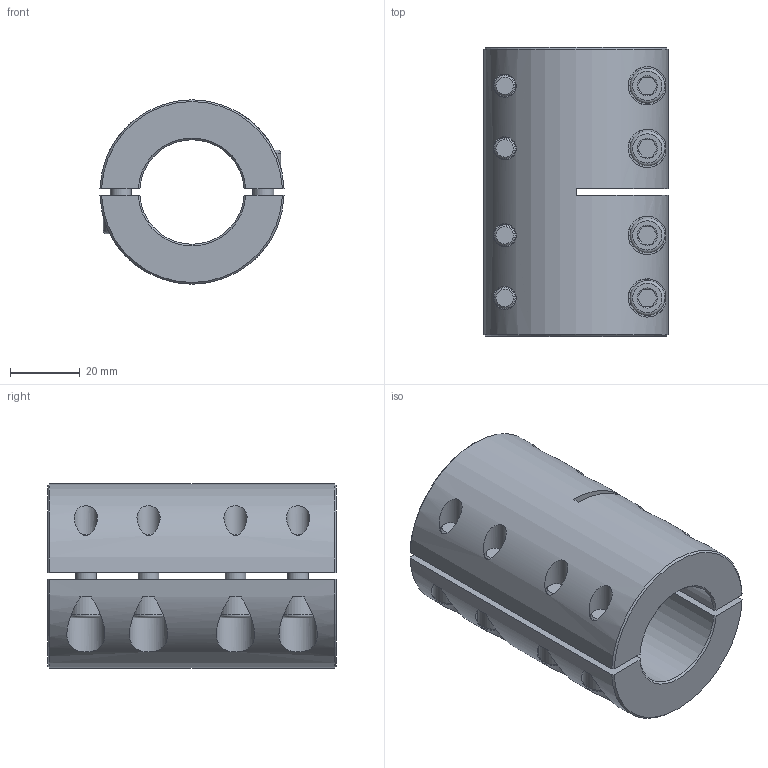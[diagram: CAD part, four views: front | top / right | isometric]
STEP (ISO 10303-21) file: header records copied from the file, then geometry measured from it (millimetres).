
FILE_DESCRIPTION( ( 'Unknown' ), '1' );
FILE_NAME( 'K:/Konstruktion/Fertigungszeichnungen/Schalenkupplung/KBST-G/KBST-G-30.stp', 'Unknown', ( 'Unknown' ), ( 'Unknown' ), 'PSStep 16.0.42', 'Unknown', ' ' );
FILE_SCHEMA( ( 'AUTOMOTIVE_DESIGN { 1 0 10303 214 1 1 1 1 }' ) );
Length unit declared in the file: millimetre
Products named in the file (4): Assem1; KBST-G-30; ISO EN DIN 4762 M6x18
Assembly tree (10 placements, depth 2):
  Assem1
    KBST-G-30
    KBST-G-30
    ISO EN DIN 4762 M6x18  x8
Bounding box: 52.96 x 83 x 53 mm (x, y, z)
Volume: 114020.8 mm3; surface area: 38620.3 mm2
Topology: 10 solids, 10 shells, 260 faces, 496 edges, 296 vertices
Faces by surface type: plane 120, cone 64, cylinder 60, torus 16
Full cylindrical faces by diameter (mm): 4.917 x4, 5 x8, 6 x16, 6.4 x8, 6.647 x4, 10 x8
Entity records: 4274 total; most frequent: CARTESIAN_POINT 1640, DIRECTION 390, ORIENTED_EDGE 326, AXIS2_PLACEMENT_3D 169, EDGE_CURVE 163, EDGE_LOOP 152, VERTEX_POINT 119, FACE_OUTER_BOUND 107
